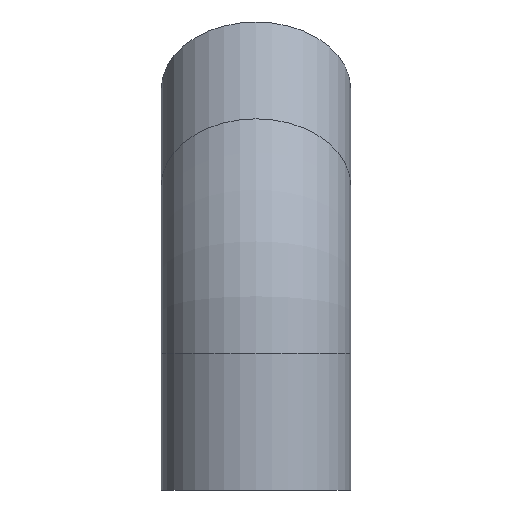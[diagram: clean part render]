
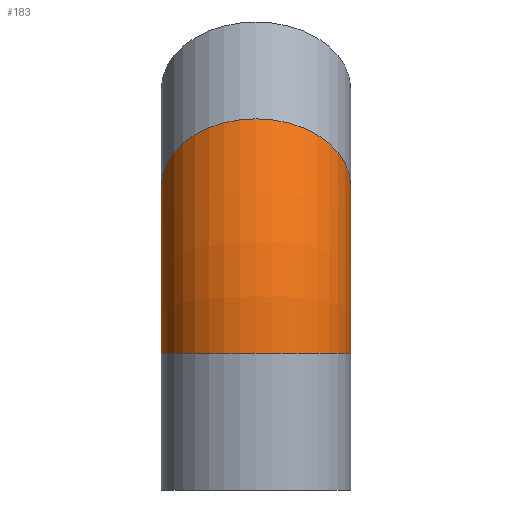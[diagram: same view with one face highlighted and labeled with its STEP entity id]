
A CAD part, left-side view. The second image highlights one B-rep face of the part: STEP entity #183.
In plain terms, the highlighted toroidal (fillet/blend) face has major radius 95 mm and minor radius 38.05 mm.
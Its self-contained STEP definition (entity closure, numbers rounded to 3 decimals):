
#152=CARTESIAN_POINT('',(54.73,0.,95.319));
#153=VERTEX_POINT('',#152);
#154=CARTESIAN_POINT('',(27.825,0.0,122.225));
#155=DIRECTION('',(-0.707,0.0,-0.707));
#156=DIRECTION('',(-0.707,0.0,0.707));
#157=AXIS2_PLACEMENT_3D('',#154,#155,#156);
#158=CIRCLE('',#157,38.05);
#159=EDGE_CURVE('',#153,#153,#158,.T.);
#164=CARTESIAN_POINT('',(95.0,0.0,55.05));
#165=DIRECTION('',(0.0,1.0,0.0));
#166=DIRECTION('',(0.0,0.0,1.0));
#167=AXIS2_PLACEMENT_3D('',#164,#165,#166);
#168=TOROIDAL_SURFACE('',#167,95.0,38.05);
#169=ORIENTED_EDGE('',*,*,#159,.T.);
#170=EDGE_LOOP('',(#169));
#171=FACE_OUTER_BOUND('',#170,.T.);
#172=CARTESIAN_POINT('',(38.05,0.,55.05));
#173=VERTEX_POINT('',#172);
#174=CARTESIAN_POINT('',(0.,0.0,55.05));
#175=DIRECTION('',(0.0,0.0,-1.0));
#176=DIRECTION('',(-1.0,0.0,0.0));
#177=AXIS2_PLACEMENT_3D('',#174,#175,#176);
#178=CIRCLE('',#177,38.05);
#179=EDGE_CURVE('',#173,#173,#178,.T.);
#180=ORIENTED_EDGE('',*,*,#179,.F.);
#181=EDGE_LOOP('',(#180));
#182=FACE_BOUND('',#181,.T.);
#183=ADVANCED_FACE('',(#171,#182),#168,.T.);
